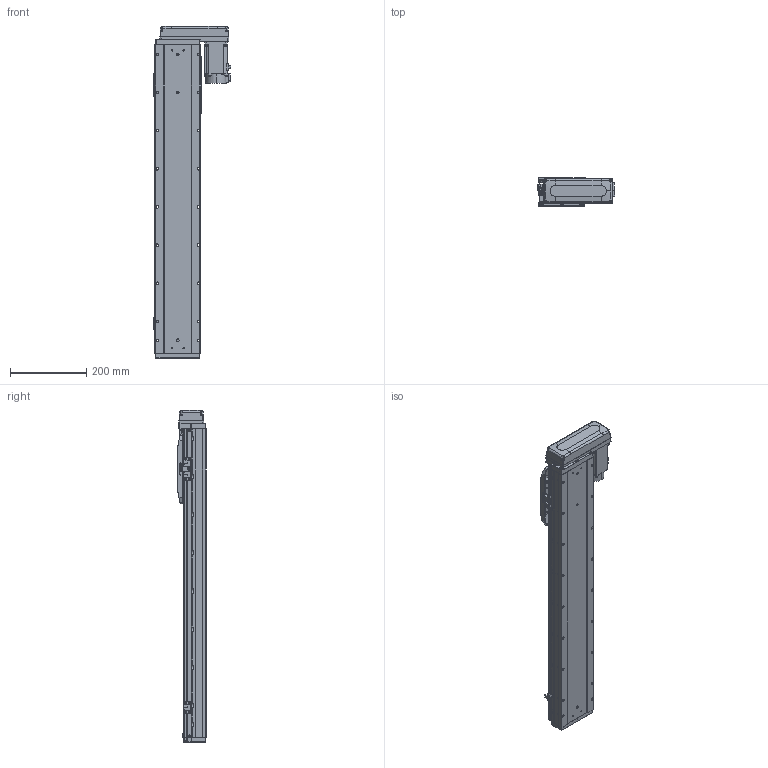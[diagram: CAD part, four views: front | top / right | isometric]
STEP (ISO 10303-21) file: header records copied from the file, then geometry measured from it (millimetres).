
FILE_DESCRIPTION (( 'STEP AP203' ), '1' );
FILE_NAME ('GTH12-600-BL-M40-C4.step', '2025-07-16T03:41:48', ( '' ), ( '' ), 'SwSTEP 2.0', 'SolidWorks 2023', '' );
FILE_SCHEMA (( 'CONFIG_CONTROL_DESIGN' ));
Length unit declared in the file: millimetre
Products named in the file (17): BTH-M3X5X6; CTHA86-033_M40B; GBT 70.3-M3×8; GTH120-006; GTH120-027-1_GTH120-027-2; 感应器总成右; GTH80-022; GTH120-001_600; GBT 70.1-M3×6; GTH80-028; GTH12-600-BL-M40-C4; 感应器总成左; GTH120-013; GTH120-003; GTH120-004; hg-kn43j_-s100_; GBT 70.1-M5×16
Assembly tree (38 placements, depth 2):
  GTH12-600-BL-M40-C4
    GTH120-001_600
    GTH120-003
    GTH120-006
    GTH120-004
    GTH120-013
    GBT 70.1-M3×6  x2
    GBT 70.1-M5×16  x10
    GBT 70.3-M3×8  x4
    GTH80-022
    GTH80-028  x2
    BTH-M3X5X6  x8
    hg-kn43j_-s100_
    CTHA86-033_M40B
    GTH120-027-1_GTH120-027-2
    感应器总成右  x2
    感应器总成左
Bounding box: 203.5 x 76 x 870.5 mm (x, y, z)
Volume: 6526672 mm3; surface area: 615361.3 mm2
Topology: 55 solids, 55 shells, 2405 faces, 5650 edges, 3481 vertices
Faces by surface type: plane 1228, cylinder 697, cone 304, torus 162, sphere 8, bspline 6
Entity records: 52784 total; most frequent: CARTESIAN_POINT 9034, DIRECTION 8937, ORIENTED_EDGE 8292, EDGE_CURVE 4146, AXIS2_PLACEMENT_3D 3117, VECTOR 2703, LINE 2703, VERTEX_POINT 2614
